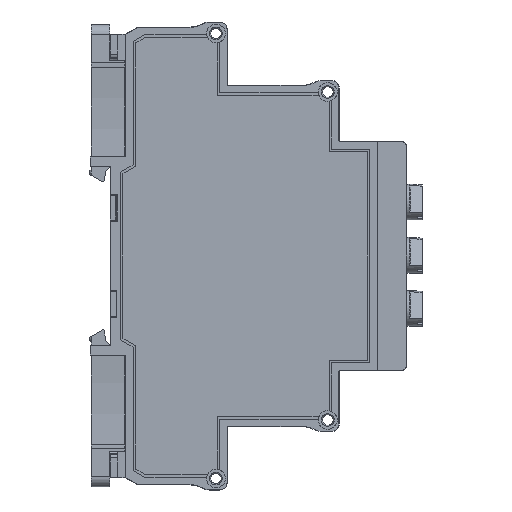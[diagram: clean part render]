
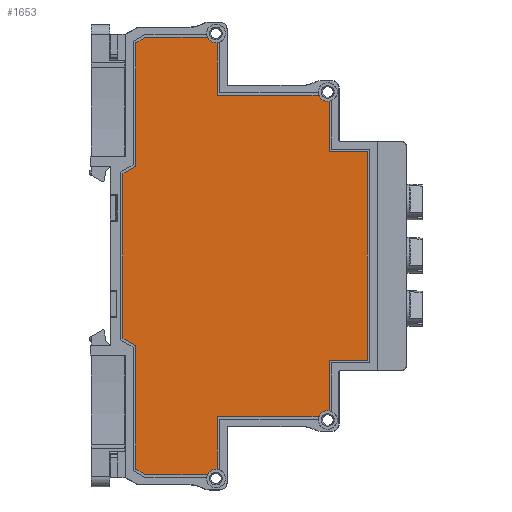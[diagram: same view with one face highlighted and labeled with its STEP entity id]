
A CAD part, front view. The second image highlights one B-rep face of the part: STEP entity #1653.
In plain terms, the highlighted planar face has unit normal (0, -1, 0) as drawn and (1, 0, 0) by its records, which use the part's own axes.
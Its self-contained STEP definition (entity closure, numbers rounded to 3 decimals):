
#1653=ADVANCED_FACE('',(#27874),#27876,.T.);
#27874=FACE_BOUND('',#27875,.T.);
#27875=EDGE_LOOP('',(#48667,#48668,#48669,#48670,#48671,#48672,#48673,#48674,#48675,
#48676,#48677,#48678,#48679,#48680,#48681,#48682,#48683,#48684,#48685,#48686,#48687,
#48688));
#27876=PLANE('',#27877);
#27877=AXIS2_PLACEMENT_3D('',#27878,#27879,#27880);
#27878=CARTESIAN_POINT('',(11.25,0.,0.));
#27879=DIRECTION('',(1.,0.,0.));
#27880=DIRECTION('',(0.,0.,-1.));
#48667=ORIENTED_EDGE('',*,*,#67016,.F.);
#48668=ORIENTED_EDGE('',*,*,#67017,.T.);
#48669=ORIENTED_EDGE('',*,*,#66930,.F.);
#48670=ORIENTED_EDGE('',*,*,#67018,.T.);
#48671=ORIENTED_EDGE('',*,*,#67019,.T.);
#48672=ORIENTED_EDGE('',*,*,#67020,.T.);
#48673=ORIENTED_EDGE('',*,*,#67021,.T.);
#48674=ORIENTED_EDGE('',*,*,#67022,.T.);
#48675=ORIENTED_EDGE('',*,*,#66914,.F.);
#48676=ORIENTED_EDGE('',*,*,#67023,.F.);
#48677=ORIENTED_EDGE('',*,*,#67024,.T.);
#48678=ORIENTED_EDGE('',*,*,#66924,.F.);
#48679=ORIENTED_EDGE('',*,*,#67025,.T.);
#48680=ORIENTED_EDGE('',*,*,#67026,.F.);
#48681=ORIENTED_EDGE('',*,*,#67027,.T.);
#48682=ORIENTED_EDGE('',*,*,#67028,.T.);
#48683=ORIENTED_EDGE('',*,*,#67029,.T.);
#48684=ORIENTED_EDGE('',*,*,#67030,.T.);
#48685=ORIENTED_EDGE('',*,*,#67031,.T.);
#48686=ORIENTED_EDGE('',*,*,#67032,.F.);
#48687=ORIENTED_EDGE('',*,*,#67033,.T.);
#48688=ORIENTED_EDGE('',*,*,#66940,.F.);
#66914=EDGE_CURVE('',#75271,#75256,#75273,.T.);
#66924=EDGE_CURVE('',#75291,#75276,#75293,.T.);
#66930=EDGE_CURVE('',#75303,#75305,#75306,.T.);
#66940=EDGE_CURVE('',#75323,#75325,#75326,.T.);
#67016=EDGE_CURVE('',#75472,#75323,#75473,.T.);
#67017=EDGE_CURVE('',#75472,#75305,#75474,.T.);
#67018=EDGE_CURVE('',#75303,#75475,#75476,.T.);
#67019=EDGE_CURVE('',#75475,#75477,#75478,.T.);
#67020=EDGE_CURVE('',#75477,#75479,#75480,.T.);
#67021=EDGE_CURVE('',#75479,#75481,#75482,.T.);
#67022=EDGE_CURVE('',#75481,#75256,#75483,.T.);
#67023=EDGE_CURVE('',#75484,#75271,#75485,.T.);
#67024=EDGE_CURVE('',#75484,#75276,#75486,.T.);
#67025=EDGE_CURVE('',#75291,#75487,#75488,.T.);
#67026=EDGE_CURVE('',#75489,#75487,#75490,.T.);
#67027=EDGE_CURVE('',#75489,#75491,#75492,.T.);
#67028=EDGE_CURVE('',#75491,#75493,#75494,.T.);
#67029=EDGE_CURVE('',#75493,#75495,#75496,.T.);
#67030=EDGE_CURVE('',#75495,#75497,#75498,.T.);
#67031=EDGE_CURVE('',#75497,#75499,#75500,.T.);
#67032=EDGE_CURVE('',#75501,#75499,#75502,.T.);
#67033=EDGE_CURVE('',#75501,#75325,#75503,.T.);
#75256=VERTEX_POINT('',#89719);
#75271=VERTEX_POINT('',#89752);
#75273=CIRCLE('',#89756,1.85);
#75276=VERTEX_POINT('',#89765);
#75291=VERTEX_POINT('',#89798);
#75293=CIRCLE('',#89802,1.85);
#75303=VERTEX_POINT('',#89826);
#75305=VERTEX_POINT('',#89830);
#75306=CIRCLE('',#89831,1.85);
#75323=VERTEX_POINT('',#89872);
#75325=VERTEX_POINT('',#89876);
#75326=CIRCLE('',#89877,1.85);
#75472=VERTEX_POINT('',#90197);
#75473=LINE('',#90198,#90199);
#75474=LINE('',#90201,#90202);
#75475=VERTEX_POINT('',#90204);
#75476=LINE('',#90205,#90206);
#75477=VERTEX_POINT('',#90208);
#75478=LINE('',#90209,#90210);
#75479=VERTEX_POINT('',#90212);
#75480=LINE('',#90213,#90214);
#75481=VERTEX_POINT('',#90216);
#75482=LINE('',#90217,#90218);
#75483=LINE('',#90220,#90221);
#75484=VERTEX_POINT('',#90223);
#75485=LINE('',#90224,#90225);
#75486=LINE('',#90227,#90228);
#75487=VERTEX_POINT('',#90230);
#75488=LINE('',#90231,#90232);
#75489=VERTEX_POINT('',#90234);
#75490=LINE('',#90235,#90236);
#75491=VERTEX_POINT('',#90238);
#75492=LINE('',#90239,#90240);
#75493=VERTEX_POINT('',#90242);
#75494=LINE('',#90243,#90244);
#75495=VERTEX_POINT('',#90246);
#75496=LINE('',#90247,#90248);
#75497=VERTEX_POINT('',#90250);
#75498=LINE('',#90251,#90252);
#75499=VERTEX_POINT('',#90254);
#75500=LINE('',#90255,#90256);
#75501=VERTEX_POINT('',#90258);
#75502=LINE('',#90259,#90260);
#75503=LINE('',#90262,#90263);
#89719=CARTESIAN_POINT('',(11.25,-30.541,38.985));
#89752=CARTESIAN_POINT('',(11.25,-31.7,37.015));
#89756=AXIS2_PLACEMENT_3D('',#89757,#89758,#89759);
#89757=CARTESIAN_POINT('',(11.25,-32.375,38.738));
#89758=DIRECTION('',(1.,0.,0.));
#89759=DIRECTION('',(0.,0.365,-0.931));
#89765=CARTESIAN_POINT('',(11.25,-42.103,16.897));
#89798=CARTESIAN_POINT('',(11.25,-43.2,14.953));
#89802=AXIS2_PLACEMENT_3D('',#89803,#89804,#89805);
#89803=CARTESIAN_POINT('',(11.25,-43.937,16.65));
#89804=DIRECTION('',(1.,0.,0.));
#89805=DIRECTION('',(0.,0.398,-0.917));
#89826=CARTESIAN_POINT('',(11.25,30.541,38.985));
#89830=CARTESIAN_POINT('',(11.25,31.7,37.015));
#89831=AXIS2_PLACEMENT_3D('',#89832,#89833,#89834);
#89832=CARTESIAN_POINT('',(11.25,32.375,38.738));
#89833=DIRECTION('',(1.,0.,0.));
#89834=DIRECTION('',(0.,-0.991,0.134));
#89872=CARTESIAN_POINT('',(11.25,42.103,16.897));
#89876=CARTESIAN_POINT('',(11.25,43.2,14.953));
#89877=AXIS2_PLACEMENT_3D('',#89878,#89879,#89880);
#89878=CARTESIAN_POINT('',(11.25,43.937,16.65));
#89879=DIRECTION('',(1.,0.,0.));
#89880=DIRECTION('',(0.,-0.991,0.134));
#90197=CARTESIAN_POINT('',(11.25,31.7,16.897));
#90198=CARTESIAN_POINT('',(11.25,31.7,16.897));
#90199=VECTOR('',#90200,1.);
#90200=DIRECTION('',(0.,1.,0.));
#90201=CARTESIAN_POINT('',(11.25,31.7,16.897));
#90202=VECTOR('',#90203,1.);
#90203=DIRECTION('',(0.,0.,1.));
#90204=CARTESIAN_POINT('',(11.25,20.6,38.985));
#90205=CARTESIAN_POINT('',(11.25,30.541,38.985));
#90206=VECTOR('',#90207,1.);
#90207=DIRECTION('',(0.,-1.,0.));
#90208=CARTESIAN_POINT('',(11.25,20.6,46.53));
#90209=CARTESIAN_POINT('',(11.25,20.6,38.985));
#90210=VECTOR('',#90211,1.);
#90211=DIRECTION('',(0.,0.,1.));
#90212=CARTESIAN_POINT('',(11.25,-20.6,46.53));
#90213=CARTESIAN_POINT('',(11.25,20.6,46.53));
#90214=VECTOR('',#90215,1.);
#90215=DIRECTION('',(0.,-1.,0.));
#90216=CARTESIAN_POINT('',(11.25,-20.6,38.985));
#90217=CARTESIAN_POINT('',(11.25,-20.6,46.53));
#90218=VECTOR('',#90219,1.);
#90219=DIRECTION('',(0.,0.,-1.));
#90220=CARTESIAN_POINT('',(11.25,-20.6,38.985));
#90221=VECTOR('',#90222,1.);
#90222=DIRECTION('',(0.,-1.,0.));
#90223=CARTESIAN_POINT('',(11.25,-31.7,16.897));
#90224=CARTESIAN_POINT('',(11.25,-31.7,16.897));
#90225=VECTOR('',#90226,1.);
#90226=DIRECTION('',(0.,0.,1.));
#90227=CARTESIAN_POINT('',(11.25,-31.7,16.897));
#90228=VECTOR('',#90229,1.);
#90229=DIRECTION('',(0.,-1.,0.));
#90230=CARTESIAN_POINT('',(11.25,-43.2,2.761));
#90231=CARTESIAN_POINT('',(11.25,-43.2,14.953));
#90232=VECTOR('',#90233,1.);
#90233=DIRECTION('',(0.,0.,-1.));
#90234=CARTESIAN_POINT('',(11.25,-42.068,0.8));
#90235=CARTESIAN_POINT('',(11.25,-42.068,0.8));
#90236=VECTOR('',#90237,1.);
#90237=DIRECTION('',(0.,-0.5,0.866));
#90238=CARTESIAN_POINT('',(11.25,-17.711,0.8));
#90239=CARTESIAN_POINT('',(11.25,-42.068,0.8));
#90240=VECTOR('',#90241,1.);
#90241=DIRECTION('',(0.,1.,0.));
#90242=CARTESIAN_POINT('',(11.25,-16.268,-1.7));
#90243=CARTESIAN_POINT('',(11.25,-17.711,0.8));
#90244=VECTOR('',#90245,1.);
#90245=DIRECTION('',(0.,0.5,-0.866));
#90246=CARTESIAN_POINT('',(11.25,16.268,-1.7));
#90247=CARTESIAN_POINT('',(11.25,-16.268,-1.7));
#90248=VECTOR('',#90249,1.);
#90249=DIRECTION('',(0.,1.,0.));
#90250=CARTESIAN_POINT('',(11.25,17.711,0.8));
#90251=CARTESIAN_POINT('',(11.25,16.268,-1.7));
#90252=VECTOR('',#90253,1.);
#90253=DIRECTION('',(0.,0.5,0.866));
#90254=CARTESIAN_POINT('',(11.25,42.068,0.8));
#90255=CARTESIAN_POINT('',(11.25,17.711,0.8));
#90256=VECTOR('',#90257,1.);
#90257=DIRECTION('',(0.,1.,0.));
#90258=CARTESIAN_POINT('',(11.25,43.2,2.761));
#90259=CARTESIAN_POINT('',(11.25,43.2,2.761));
#90260=VECTOR('',#90261,1.);
#90261=DIRECTION('',(0.,-0.5,-0.866));
#90262=CARTESIAN_POINT('',(11.25,43.2,2.761));
#90263=VECTOR('',#90264,1.);
#90264=DIRECTION('',(0.,0.,1.));
